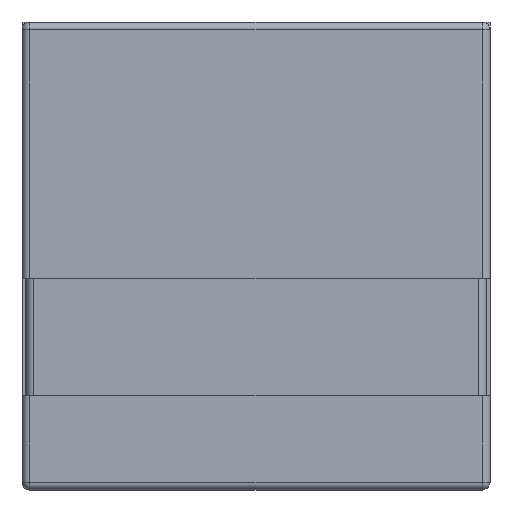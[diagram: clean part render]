
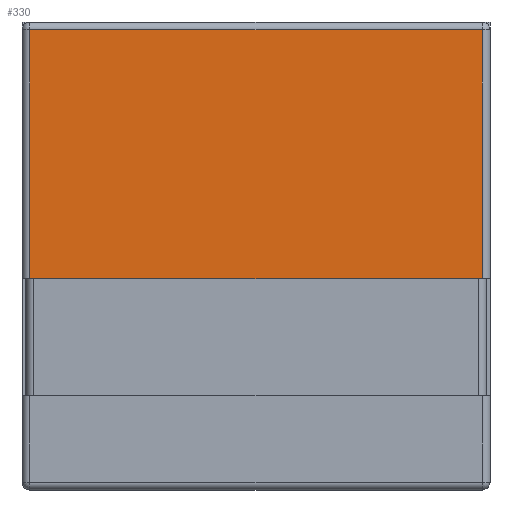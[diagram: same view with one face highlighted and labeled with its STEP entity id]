
A CAD part, front view. The second image highlights one B-rep face of the part: STEP entity #330.
In plain terms, the highlighted planar face has unit normal (0, -1, 0).
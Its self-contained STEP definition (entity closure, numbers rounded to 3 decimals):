
#1 = CARTESIAN_POINT ( 'NONE',  ( 2.9, -10., 6. ) ) ;
#71 = FACE_OUTER_BOUND ( 'NONE', #1103, .T. ) ;
#72 = EDGE_CURVE ( 'NONE', #855, #857, #426, .T. ) ;
#74 = VECTOR ( 'NONE', #408, 1000. ) ;
#84 = LINE ( 'NONE', #1648, #715 ) ;
#86 = CARTESIAN_POINT ( 'NONE',  ( -3., -10., 2.708 ) ) ;
#107 = ORIENTED_EDGE ( 'NONE', *, *, #72, .T. ) ;
#215 = CARTESIAN_POINT ( 'NONE',  ( -3., -10., 6. ) ) ;
#308 = CARTESIAN_POINT ( 'NONE',  ( 2.9, -10., 5.9 ) ) ;
#330 = ADVANCED_FACE ( 'NONE', ( #71 ), #429, .F. ) ;
#373 = VERTEX_POINT ( 'NONE', #869 ) ;
#408 = DIRECTION ( 'NONE',  ( 0., 0., 1. ) ) ;
#426 = LINE ( 'NONE', #1, #74 ) ;
#429 = PLANE ( 'NONE',  #1411 ) ;
#461 = VERTEX_POINT ( 'NONE', #1279 ) ;
#484 = EDGE_CURVE ( 'NONE', #373, #461, #1344, .T. ) ;
#552 = EDGE_CURVE ( 'NONE', #855, #461, #763, .T. ) ;
#625 = CARTESIAN_POINT ( 'NONE',  ( -2.9, -10., 6. ) ) ;
#627 = DIRECTION ( 'NONE',  ( -1., 0., 0. ) ) ;
#715 = VECTOR ( 'NONE', #627, 1000. ) ;
#763 = LINE ( 'NONE', #86, #1320 ) ;
#791 = ORIENTED_EDGE ( 'NONE', *, *, #484, .T. ) ;
#846 = VECTOR ( 'NONE', #1407, 1000. ) ;
#855 = VERTEX_POINT ( 'NONE', #1496 ) ;
#857 = VERTEX_POINT ( 'NONE', #308 ) ;
#869 = CARTESIAN_POINT ( 'NONE',  ( -2.9, -10., 5.9 ) ) ;
#991 = ORIENTED_EDGE ( 'NONE', *, *, #1534, .T. ) ;
#1103 = EDGE_LOOP ( 'NONE', ( #1313, #107, #991, #791 ) ) ;
#1279 = CARTESIAN_POINT ( 'NONE',  ( -2.9, -10., 2.708 ) ) ;
#1313 = ORIENTED_EDGE ( 'NONE', *, *, #552, .F. ) ;
#1320 = VECTOR ( 'NONE', #1402, 1000. ) ;
#1344 = LINE ( 'NONE', #625, #846 ) ;
#1391 = DIRECTION ( 'NONE',  ( 0., 1., 0. ) ) ;
#1402 = DIRECTION ( 'NONE',  ( -1., 0., 0. ) ) ;
#1407 = DIRECTION ( 'NONE',  ( 0., 0., -1. ) ) ;
#1411 = AXIS2_PLACEMENT_3D ( 'NONE', #215, #1391, #1499 ) ;
#1496 = CARTESIAN_POINT ( 'NONE',  ( 2.9, -10., 2.708 ) ) ;
#1499 = DIRECTION ( 'NONE',  ( 0., 0., 1. ) ) ;
#1534 = EDGE_CURVE ( 'NONE', #857, #373, #84, .T. ) ;
#1648 = CARTESIAN_POINT ( 'NONE',  ( -3., -10., 5.9 ) ) ;
